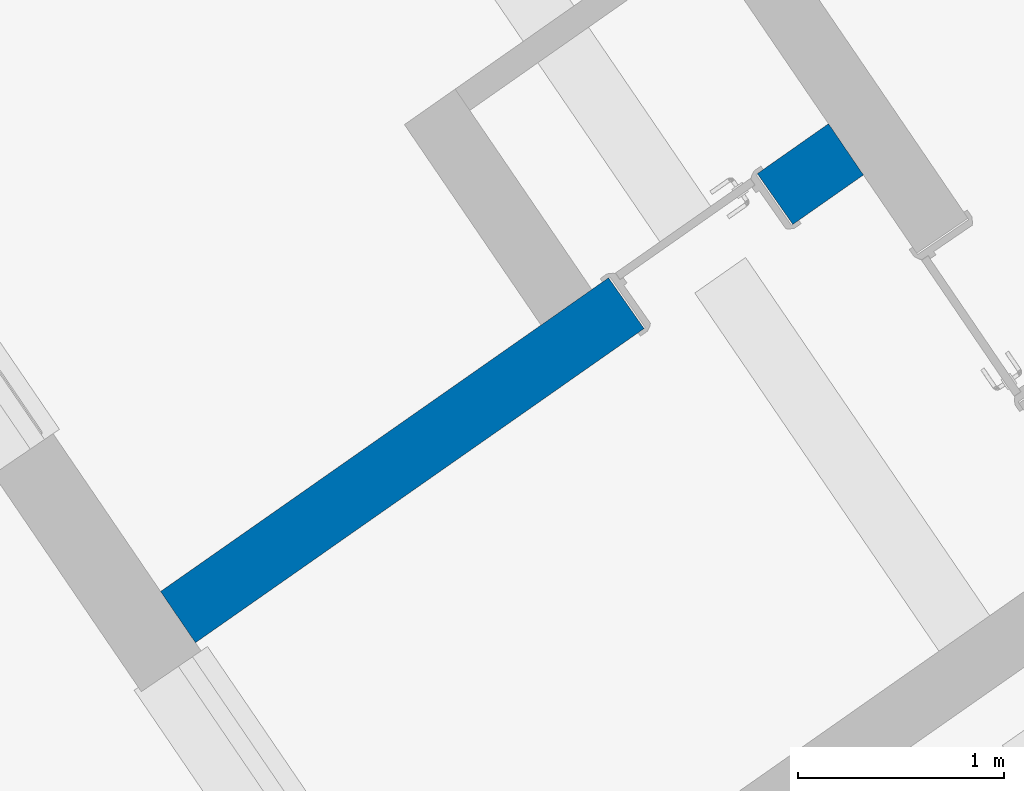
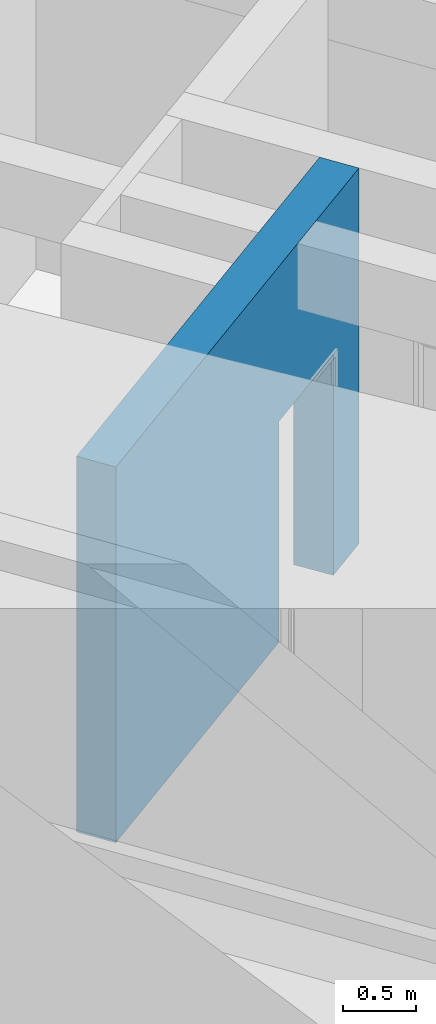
# One storey, part 21 of 112: 1 wall, 1 opening.
"""IFC2X3 building model written with IfcOpenShell, lengths in millimetres."""

from ifc_helpers import new_model, entity, si_unit, converted_unit, derived_unit, direction, frame, frame_2d, origin, place, context, subcontext, project, spatial, polyline, rectangle, outline, extrude, material, layer, layer_set, layer_usage, type_object, element, save


model = new_model("IFC2X3")

# Units and contexts
model_context = context("Model", 3, precision=0.01, world=origin(), true_north=direction((6.123031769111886e-17, 1.0)))
body_context = subcontext(model_context, "Body", "Model", "MODEL_VIEW")
ifc_project = project(units=[si_unit("LENGTHUNIT", "METRE", prefix="MILLI"), si_unit("AREAUNIT", "SQUARE_METRE"), si_unit("VOLUMEUNIT", "CUBIC_METRE"), converted_unit("PLANEANGLEUNIT", "DEGREE", entity("IfcRatioMeasure", 0.017453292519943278), si_unit("PLANEANGLEUNIT", "RADIAN"), dimensions=[0, 0, 0, 0, 0, 0, 0]), si_unit("MASSUNIT", "GRAM", prefix="KILO"), derived_unit("MASSDENSITYUNIT", [(si_unit("MASSUNIT", "GRAM", prefix="KILO"), 1), (si_unit("LENGTHUNIT", "METRE"), -3)]), derived_unit("MOMENTOFINERTIAUNIT", [(si_unit("LENGTHUNIT", "METRE"), 4)]), si_unit("TIMEUNIT", "SECOND"), si_unit("FREQUENCYUNIT", "HERTZ"), si_unit("THERMODYNAMICTEMPERATUREUNIT", "DEGREE_CELSIUS"), derived_unit("THERMALTRANSMITTANCEUNIT", [(si_unit("MASSUNIT", "GRAM", prefix="KILO"), 1), (si_unit("THERMODYNAMICTEMPERATUREUNIT", "KELVIN"), -1), (si_unit("TIMEUNIT", "SECOND"), -3)]), derived_unit("THERMALCONDUCTANCEUNIT", [(si_unit("MASSUNIT", "GRAM", prefix="KILO"), 1), (si_unit("LENGTHUNIT", "METRE"), 1), (si_unit("THERMODYNAMICTEMPERATUREUNIT", "KELVIN"), -1), (si_unit("TIMEUNIT", "SECOND"), -3)]), derived_unit("VOLUMETRICFLOWRATEUNIT", [(si_unit("LENGTHUNIT", "METRE"), 3), (si_unit("TIMEUNIT", "SECOND"), -1)]), derived_unit("MASSFLOWRATEUNIT", [(si_unit("MASSUNIT", "GRAM", prefix="KILO"), 1), (si_unit("TIMEUNIT", "SECOND"), -1)]), derived_unit("ROTATIONALFREQUENCYUNIT", [(si_unit("TIMEUNIT", "SECOND"), -1)]), si_unit("ELECTRICCURRENTUNIT", "AMPERE"), si_unit("ELECTRICVOLTAGEUNIT", "VOLT"), si_unit("POWERUNIT", "WATT"), converted_unit("FORCEUNIT", "KIP", entity("IfcRatioMeasure", 2.088543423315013e-05), si_unit("FORCEUNIT", "NEWTON"), dimensions=[1, 1, -2, 0, 0, 0, 0]), si_unit("ILLUMINANCEUNIT", "LUX"), si_unit("LUMINOUSFLUXUNIT", "LUMEN"), si_unit("LUMINOUSINTENSITYUNIT", "CANDELA"), derived_unit("USERDEFINED", [(si_unit("MASSUNIT", "GRAM", prefix="KILO"), -1), (si_unit("LENGTHUNIT", "METRE"), -2), (si_unit("TIMEUNIT", "SECOND"), 3), (si_unit("LUMINOUSFLUXUNIT", "LUMEN"), 1)]), derived_unit("USERDEFINED", [(si_unit("MASSUNIT", "GRAM", prefix="KILO"), 1), (si_unit("LENGTHUNIT", "METRE"), 3), (si_unit("TIMEUNIT", "SECOND"), -3), (si_unit("ELECTRICCURRENTUNIT", "AMPERE"), -2)]), derived_unit("USERDEFINED", [(si_unit("LENGTHUNIT", "METRE"), 2), (si_unit("TIMEUNIT", "SECOND"), -2)]), derived_unit("SOUNDPOWERUNIT", [(si_unit("MASSUNIT", "GRAM", prefix="KILO"), 1), (si_unit("LENGTHUNIT", "METRE"), 2), (si_unit("TIMEUNIT", "SECOND"), -3)]), derived_unit("SOUNDPRESSUREUNIT", [(si_unit("MASSUNIT", "GRAM", prefix="KILO"), 1), (si_unit("LENGTHUNIT", "METRE"), -1), (si_unit("TIMEUNIT", "SECOND"), -2)]), derived_unit("LINEARVELOCITYUNIT", [(si_unit("LENGTHUNIT", "METRE"), 1), (si_unit("TIMEUNIT", "SECOND"), -1)]), si_unit("PRESSUREUNIT", "PASCAL"), derived_unit("USERDEFINED", [(si_unit("LENGTHUNIT", "METRE"), -2), (si_unit("MASSUNIT", "GRAM", prefix="KILO"), 1), (si_unit("TIMEUNIT", "SECOND"), -2)]), derived_unit("LINEARFORCEUNIT", [(si_unit("MASSUNIT", "GRAM", prefix="KILO"), 1), (si_unit("LENGTHUNIT", "METRE"), 1), (si_unit("TIMEUNIT", "SECOND"), -2), (si_unit("LENGTHUNIT", "METRE"), -1)]), derived_unit("PLANARFORCEUNIT", [(si_unit("MASSUNIT", "GRAM", prefix="KILO"), 1), (si_unit("LENGTHUNIT", "METRE"), 1), (si_unit("TIMEUNIT", "SECOND"), -2), (si_unit("LENGTHUNIT", "METRE"), -2)]), derived_unit("SPECIFICHEATCAPACITYUNIT", [(si_unit("LENGTHUNIT", "METRE"), 2), (si_unit("TIMEUNIT", "SECOND"), -2), (si_unit("THERMODYNAMICTEMPERATUREUNIT", "KELVIN"), -1)]), derived_unit("VAPORPERMEABILITYUNIT", [(si_unit("TIMEUNIT", "SECOND"), 1), (si_unit("LENGTHUNIT", "METRE"), -1)]), derived_unit("DYNAMICVISCOSITYUNIT", [(si_unit("MASSUNIT", "GRAM", prefix="KILO"), 1), (si_unit("LENGTHUNIT", "METRE"), -1), (si_unit("TIMEUNIT", "SECOND"), -1)]), derived_unit("THERMALEXPANSIONCOEFFICIENTUNIT", [(si_unit("THERMODYNAMICTEMPERATUREUNIT", "KELVIN"), -1)])], contexts=[model_context])

# Site, building, storey
site_placement = place(None, frame((0.0, 0.0, 0.0), z_axis=(0.0, 0.0, 1.0), x_axis=(0.8191520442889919, 0.5735764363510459, 0.0)))
site = spatial("IfcSite", under=ifc_project, at=site_placement, Name="Default", CompositionType="ELEMENT")
building_placement = place(site_placement, origin())
building = spatial("IfcBuilding", under=site, at=building_placement, CompositionType="ELEMENT")
storey_placement = place(building_placement, frame((0.0, 0.0, -3600.0)))
storey = spatial("IfcBuildingStorey", under=building, at=storey_placement, Name="0.UG -3.60", CompositionType="ELEMENT", Elevation=-3600.0000000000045)

# Wall, opening
ifc_material = material(Name="Analytical Wall Surface_CJC")
ifc_layer = layer(ifc_material, 300.0)
ifc_layer_set = layer_set([ifc_layer], Name="Basic Wall:Wand_Innen_30")
ifc_layer_usage = layer_usage(ifc_layer_set, "AXIS2", "NEGATIVE", 150.0)
wall_type = type_object("IfcWallType", Name="Basic Wall:Wand_Innen_30", PredefinedType="STANDARD", material=ifc_layer_set)
wall_placement = place(storey_placement, frame((-223104.97395063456, 87821.35891435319, 300.0)))
wall = element("IfcWallStandardCase", 1, at=wall_placement, inside=storey, type_object=wall_type, material=ifc_layer_usage, Name="Basic Wall:Wand_Innen_30", ObjectType="Basic Wall:Wand_Innen_30", context=body_context, shape_type="SweptSolid", body=[
    extrude(outline(polyline([(0.0, -150.0), (2953.1049743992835, -150.0), (3253.1283503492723, -150.0), (3950.27076420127, -150.0), (3954.0899499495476, 150.0), (3256.8734960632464, 150.0), (2956.850120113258, 150.0), (2553.976506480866, 150.0), (2253.9521971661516, 150.0), (3.8191857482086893, 150.0), (0.0, -150.0)])), origin(), (0.0, 0.0, 1.0), 3150.0),
])
opening_placement = place(wall_placement, frame((2652.8589783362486, -150.0, -300.0)))
element("IfcOpeningElement", 2, at=opening_placement, cuts=wall, Name="Doors_IntSgl:80x210:1", ObjectType="Opening", context=body_context, shape_type="SweptSolid", body=[
    extrude(rectangle(XDim=2150.000000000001, YDim=879.9999999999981, at=frame_2d((1075.0000000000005, 440.0000000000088), x_axis=(1.0, 0.0))), frame((0.0, 0.0, 0.0), z_axis=(0.0, 1.0, 0.0), x_axis=(0.0, 0.0, 1.0)), (0.0, 0.0, 1.0), 300.0),
])

save(model, "model.ifc")
